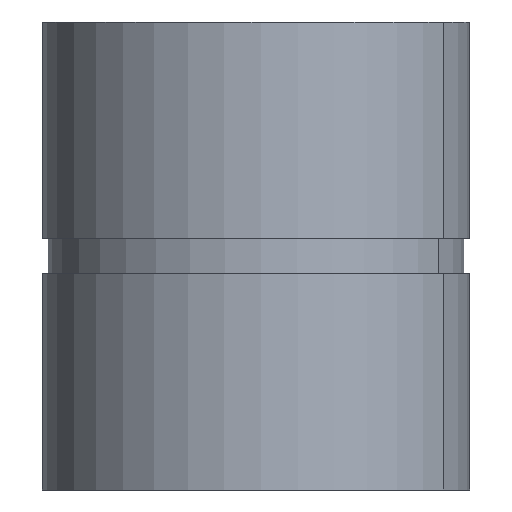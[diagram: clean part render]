
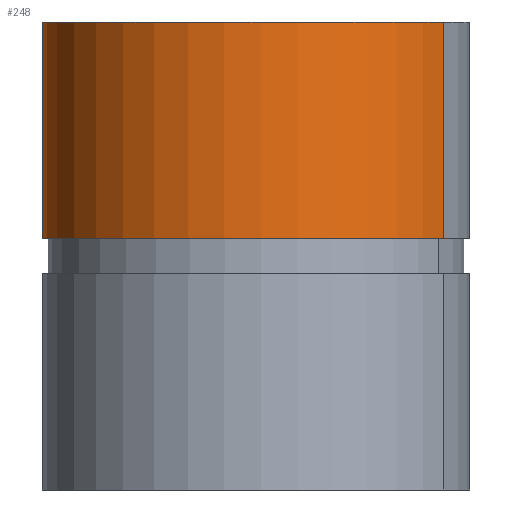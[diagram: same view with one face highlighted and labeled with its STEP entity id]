
A CAD part, left-side view. The second image highlights one B-rep face of the part: STEP entity #248.
In plain terms, the highlighted cylindrical face has radius 36.515 mm (diameter 73.03 mm), a partial arc.
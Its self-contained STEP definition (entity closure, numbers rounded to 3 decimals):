
#132=CARTESIAN_POINT('Vertex',(17.506,32.045,0.)) ;
#134=CARTESIAN_POINT('Vertex',(-17.506,-32.045,0.)) ;
#137=CARTESIAN_POINT('Axis2P3D Location',(0.,0.,0.)) ;
#206=CARTESIAN_POINT('Line Origine',(17.506,32.045,-40.)) ;
#210=CARTESIAN_POINT('Vertex',(17.506,32.045,-37.)) ;
#213=CARTESIAN_POINT('Line Origine',(-17.506,-32.045,-40.)) ;
#217=CARTESIAN_POINT('Vertex',(-17.506,-32.045,-37.)) ;
#232=CARTESIAN_POINT('Axis2P3D Location',(0.,0.,-40.)) ;
#237=CARTESIAN_POINT('Axis2P3D Location',(0.,0.,-37.)) ;
#138=DIRECTION('Axis2P3D Direction',(0.,0.,-1.)) ;
#207=DIRECTION('Vector Direction',(0.,0.,-1.)) ;
#214=DIRECTION('Vector Direction',(0.,0.,-1.)) ;
#233=DIRECTION('Axis2P3D Direction',(-0.,0.,-1.)) ;
#234=DIRECTION('Axis2P3D XDirection',(-0.479,-0.878,0.)) ;
#238=DIRECTION('Axis2P3D Direction',(-0.,0.,-1.)) ;
#139=AXIS2_PLACEMENT_3D('Circle Axis2P3D',#137,#138,$) ;
#235=AXIS2_PLACEMENT_3D('Cylinder Axis2P3D',#232,#233,#234) ;
#239=AXIS2_PLACEMENT_3D('Circle Axis2P3D',#237,#238,$) ;
#243=ORIENTED_EDGE('',*,*,#219,.T.) ;
#244=ORIENTED_EDGE('',*,*,#141,.T.) ;
#245=ORIENTED_EDGE('',*,*,#212,.F.) ;
#246=ORIENTED_EDGE('',*,*,#241,.F.) ;
#208=VECTOR('Line Direction',#207,1.) ;
#215=VECTOR('Line Direction',#214,1.) ;
#248=ADVANCED_FACE('PartBody',(#247),#236,.T.) ;
#140=CIRCLE('generated circle',#139,36.515) ;
#240=CIRCLE('generated circle',#239,36.515) ;
#236=CYLINDRICAL_SURFACE('generated cylinder',#235,36.515) ;
#141=EDGE_CURVE('',#135,#133,#140,.T.) ;
#212=EDGE_CURVE('',#211,#133,#209,.F.) ;
#219=EDGE_CURVE('',#218,#135,#216,.F.) ;
#241=EDGE_CURVE('',#218,#211,#240,.T.) ;
#242=EDGE_LOOP('',(#243,#244,#245,#246)) ;
#247=FACE_OUTER_BOUND('',#242,.T.) ;
#209=LINE('Line',#206,#208) ;
#216=LINE('Line',#213,#215) ;
#133=VERTEX_POINT('',#132) ;
#135=VERTEX_POINT('',#134) ;
#211=VERTEX_POINT('',#210) ;
#218=VERTEX_POINT('',#217) ;
